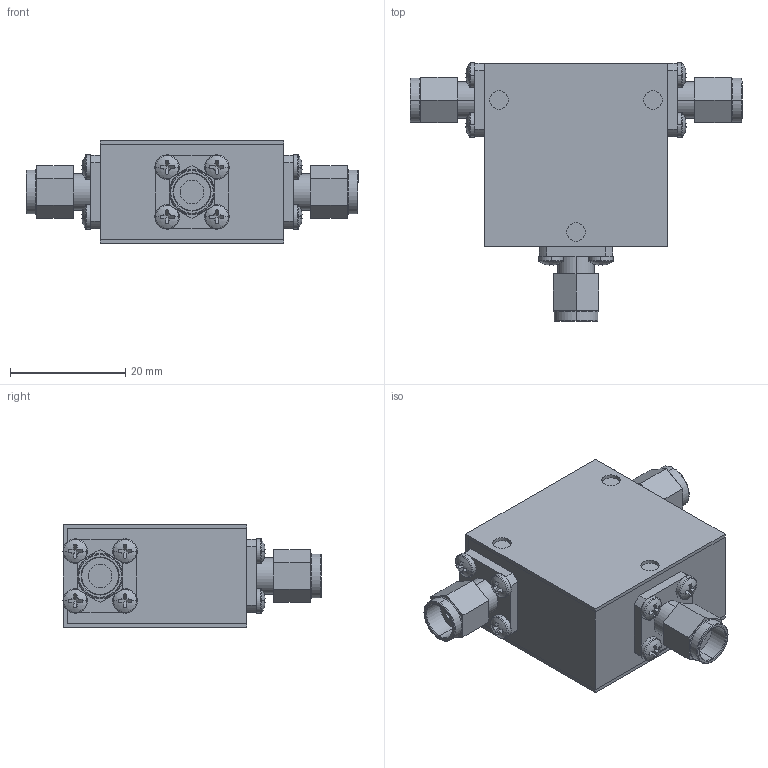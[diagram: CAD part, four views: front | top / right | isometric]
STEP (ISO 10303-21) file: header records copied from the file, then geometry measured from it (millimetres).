
FILE_DESCRIPTION (( 'STEP AP214' ), '1' );
FILE_NAME ('Package 2 Circ MMM.step', '2021-12-01T20:59:22', ( '' ), ( '' ), 'SwSTEP 2.0', 'SolidWorks 2016', '' );
FILE_SCHEMA (( 'AUTOMOTIVE_DESIGN' ));
Length unit declared in the file: inch
Products named in the file (5): Package 2; Delta SMA-Male; Package 2 Circ MMM; Package Size 2; pan cross head_ai_CR-PHMS 0.086-56x0.125x0.125-N
Assembly tree (17 placements, depth 2):
  Package 2 Circ MMM
    Package Size 2
    Package 2
    pan cross head_ai_CR-PHMS 0.086-56x0.125x0.125-N  x12
    Delta SMA-Male  x3
Bounding box: 57.51 x 44.72 x 17.78 mm (x, y, z)
Volume: 19784.2 mm3; surface area: 12713.5 mm2
Topology: 17 solids, 17 shells, 445 faces, 1014 edges, 624 vertices
Faces by surface type: plane 259, cylinder 120, torus 42, sphere 24
Entity records: 3248 total; most frequent: DIRECTION 584, CARTESIAN_POINT 504, ORIENTED_EDGE 472, EDGE_CURVE 236, AXIS2_PLACEMENT_3D 230, VERTEX_POINT 150, LINE 124, VECTOR 124
